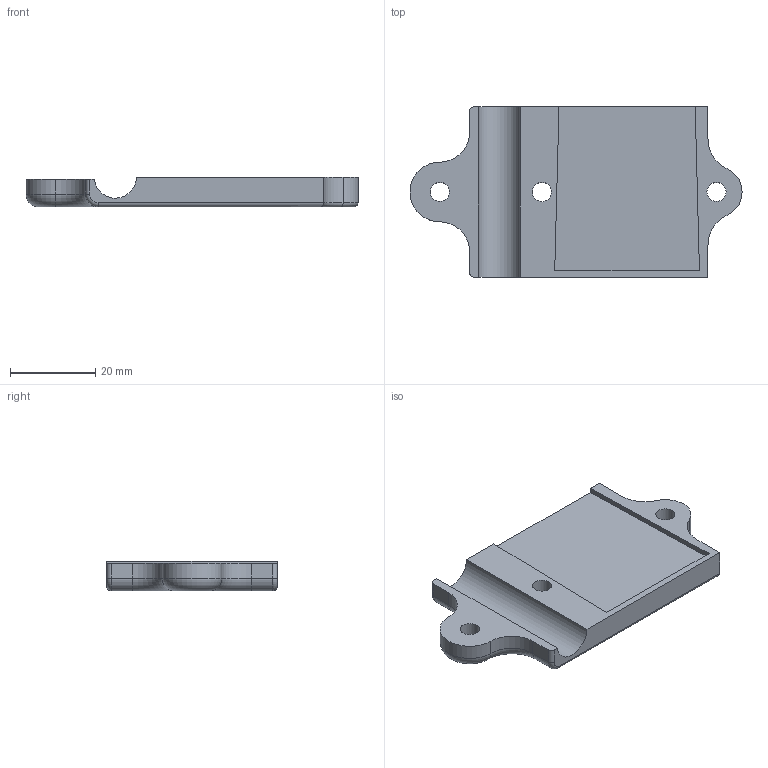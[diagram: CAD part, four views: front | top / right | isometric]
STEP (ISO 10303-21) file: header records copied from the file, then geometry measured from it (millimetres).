
FILE_DESCRIPTION((''),'2;1');
FILE_NAME('D:\Data\Documents\Studium\10.Semester\Studienarbeit\Design\Kamerahalter Oberseite.stp','2016-07-12T23:08:13',('Fabian'),(''),'Autodesk Inventor 2013','Autodesk Inventor 2013','');
FILE_SCHEMA(('AUTOMOTIVE_DESIGN { 1 0 10303 214 1 1 1 1 }'));
Length unit declared in the file: millimetre
Products named in the file (1): Kamerahalter Oberseite
Bounding box: 78 x 40 x 7 mm (x, y, z)
Volume: 13739.8 mm3; surface area: 6976.3 mm2
Topology: 1 solids, 1 shells, 47 faces, 121 edges, 76 vertices
Faces by surface type: cylinder 20, plane 19, torus 8
Full cylindrical faces by diameter (mm): 4.5 x3
Entity records: 1456 total; most frequent: DIRECTION 264, CARTESIAN_POINT 242, ORIENTED_EDGE 236, EDGE_CURVE 118, AXIS2_PLACEMENT_3D 98, VERTEX_POINT 76, VECTOR 68, LINE 68
